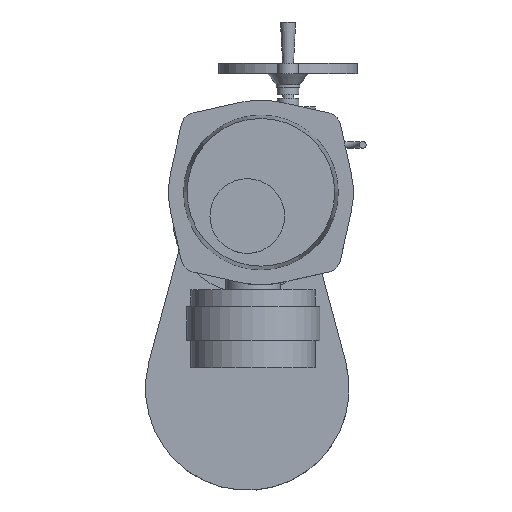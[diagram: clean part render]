
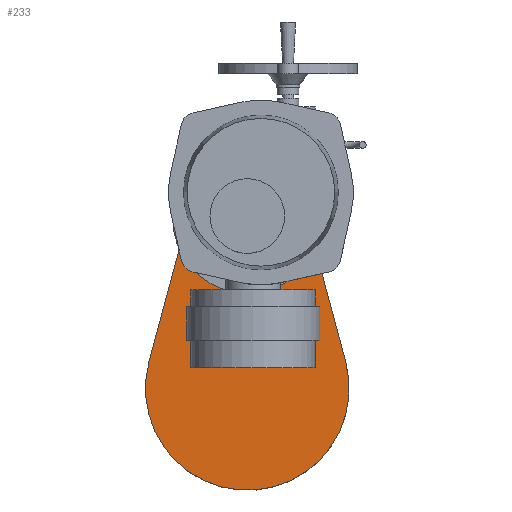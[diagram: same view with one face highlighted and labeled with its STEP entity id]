
A CAD part, top view. The second image highlights one B-rep face of the part: STEP entity #233.
In plain terms, the highlighted planar face has unit normal (0, 0, 1).
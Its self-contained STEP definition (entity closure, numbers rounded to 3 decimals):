
#233=ADVANCED_FACE('',(#1397),#1399,.F.);
#1397=FACE_BOUND('',#1398,.T.);
#1398=EDGE_LOOP('',(#2283,#2284,#2285,#2286,#2287));
#1399=PLANE('',#1400);
#1400=AXIS2_PLACEMENT_3D('',#1401,#1402,#1403);
#1401=CARTESIAN_POINT('',(0.,0.,-263.));
#1402=DIRECTION('',(0.,0.,-1.));
#1403=DIRECTION('',(0.,1.,0.));
#2283=ORIENTED_EDGE('',*,*,#2720,.T.);
#2284=ORIENTED_EDGE('',*,*,#2721,.T.);
#2285=ORIENTED_EDGE('',*,*,#2722,.F.);
#2286=ORIENTED_EDGE('',*,*,#2700,.F.);
#2287=ORIENTED_EDGE('',*,*,#2723,.F.);
#2700=EDGE_CURVE('',#2947,#2948,#2949,.T.);
#2720=EDGE_CURVE('',#2987,#2988,#2989,.F.);
#2721=EDGE_CURVE('',#2988,#2990,#2991,.F.);
#2722=EDGE_CURVE('',#2948,#2990,#2992,.T.);
#2723=EDGE_CURVE('',#2987,#2947,#2993,.T.);
#2947=VERTEX_POINT('',#3408);
#2948=VERTEX_POINT('',#3409);
#2949=CIRCLE('',#3410,150.);
#2987=VERTEX_POINT('',#3506);
#2988=VERTEX_POINT('',#3507);
#2989=CIRCLE('',#3508,85.);
#2990=VERTEX_POINT('',#3512);
#2991=CIRCLE('',#3513,85.);
#2992=LINE('',#3517,#3518);
#2993=LINE('',#3520,#3521);
#3408=CARTESIAN_POINT('',(124.841,-249.,-263.));
#3409=CARTESIAN_POINT('',(-164.841,-249.,-263.));
#3410=AXIS2_PLACEMENT_3D('',#3411,#3412,#3413);
#3411=CARTESIAN_POINT('',(-20.,-288.,-263.));
#3412=DIRECTION('',(0.,0.,-1.));
#3413=DIRECTION('',(0.966,0.26,0.));
#3506=CARTESIAN_POINT('',(62.077,-15.9,-263.));
#3507=CARTESIAN_POINT('',(-20.,-123.,-263.));
#3508=AXIS2_PLACEMENT_3D('',#3509,#3510,#3511);
#3509=CARTESIAN_POINT('',(-20.,-38.,-263.));
#3510=DIRECTION('',(0.,0.,1.));
#3511=DIRECTION('',(0.,-1.,0.));
#3512=CARTESIAN_POINT('',(-102.077,-15.9,-263.));
#3513=AXIS2_PLACEMENT_3D('',#3514,#3515,#3516);
#3514=CARTESIAN_POINT('',(-20.,-38.,-263.));
#3515=DIRECTION('',(0.,0.,1.));
#3516=DIRECTION('',(-0.966,0.26,0.));
#3517=CARTESIAN_POINT('',(-164.841,-249.,-263.));
#3518=VECTOR('',#3519,1.);
#3519=DIRECTION('',(0.26,0.966,0.));
#3520=CARTESIAN_POINT('',(62.077,-15.9,-263.));
#3521=VECTOR('',#3522,1.);
#3522=DIRECTION('',(0.26,-0.966,0.));
